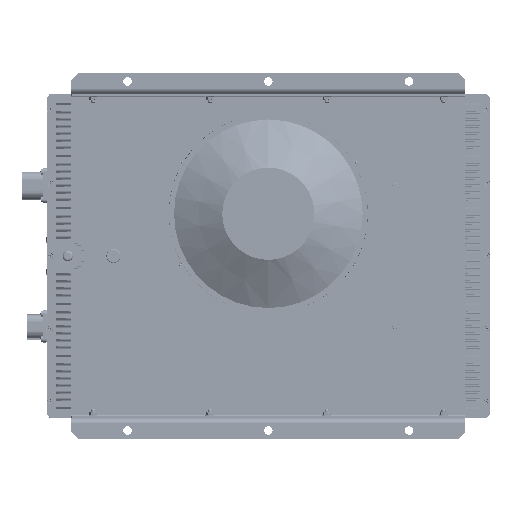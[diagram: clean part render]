
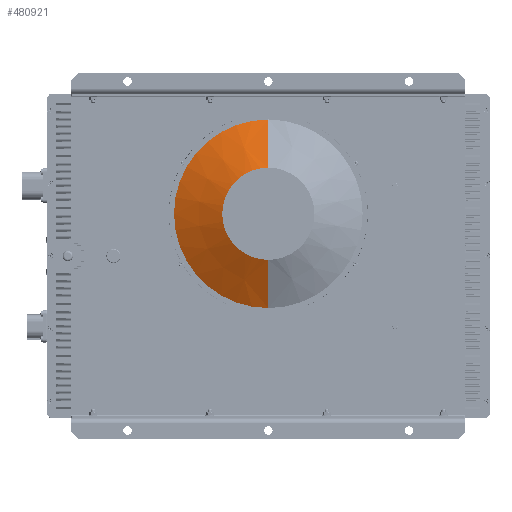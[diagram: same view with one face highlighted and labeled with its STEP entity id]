
A CAD part, front view. The second image highlights one B-rep face of the part: STEP entity #480921.
In plain terms, the highlighted conical face has half-angle 64.277 degrees and reference radius 65.5 mm.
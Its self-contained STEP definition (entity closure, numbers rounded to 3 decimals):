
#3414 = CARTESIAN_POINT ( 'NONE',  ( 0., -92., 194. ) ) ;
#21713 = CARTESIAN_POINT ( 'NONE',  ( 0., -125., -5.5 ) ) ;
#26962 = EDGE_CURVE ( 'NONE', #290509, #72258, #127569, .T. ) ;
#54387 = LINE ( 'NONE', #21713, #316258 ) ;
#60886 = EDGE_LOOP ( 'NONE', ( #364742, #251964, #407699, #353450 ) ) ;
#72258 = VERTEX_POINT ( 'NONE', #382557 ) ;
#84966 = FACE_OUTER_BOUND ( 'NONE', #60886, .T. ) ;
#112932 = DIRECTION ( 'NONE',  ( 0., 0., -1. ) ) ;
#113433 = CARTESIAN_POINT ( 'NONE',  ( 0., -92., 60. ) ) ;
#127569 = CIRCLE ( 'NONE', #384098, 65.5 ) ;
#142419 = AXIS2_PLACEMENT_3D ( 'NONE', #113433, #266429, #454849 ) ;
#162787 = CARTESIAN_POINT ( 'NONE',  ( 0., -125., 60. ) ) ;
#186863 = VERTEX_POINT ( 'NONE', #3414 ) ;
#210031 = DIRECTION ( 'NONE',  ( 0., 0.434, -0.901 ) ) ;
#229074 = EDGE_CURVE ( 'NONE', #282919, #186863, #270192, .T. ) ;
#234754 = DIRECTION ( 'NONE',  ( 0., 0.434, 0.901 ) ) ;
#237968 = DIRECTION ( 'NONE',  ( 0., 1., 0. ) ) ;
#251964 = ORIENTED_EDGE ( 'NONE', *, *, #301516, .T. ) ;
#266429 = DIRECTION ( 'NONE',  ( 0., 1., 0. ) ) ;
#269632 = VECTOR ( 'NONE', #234754, 1000. ) ;
#270192 = CIRCLE ( 'NONE', #142419, 134. ) ;
#282919 = VERTEX_POINT ( 'NONE', #317427 ) ;
#290509 = VERTEX_POINT ( 'NONE', #475399 ) ;
#301516 = EDGE_CURVE ( 'NONE', #72258, #186863, #415760, .T. ) ;
#316258 = VECTOR ( 'NONE', #210031, 1000. ) ;
#317427 = CARTESIAN_POINT ( 'NONE',  ( 0., -92., -74. ) ) ;
#318131 = EDGE_CURVE ( 'NONE', #290509, #282919, #54387, .T. ) ;
#338756 = DIRECTION ( 'NONE',  ( 0., 1., 0. ) ) ;
#353450 = ORIENTED_EDGE ( 'NONE', *, *, #318131, .F. ) ;
#356783 = AXIS2_PLACEMENT_3D ( 'NONE', #162787, #237968, #396005 ) ;
#364742 = ORIENTED_EDGE ( 'NONE', *, *, #26962, .T. ) ;
#372503 = CONICAL_SURFACE ( 'NONE', #356783, 65.5, 1.122 ) ;
#382557 = CARTESIAN_POINT ( 'NONE',  ( 0., -125., 125.5 ) ) ;
#384098 = AXIS2_PLACEMENT_3D ( 'NONE', #419139, #338756, #112932 ) ;
#396005 = DIRECTION ( 'NONE',  ( 0., 0., -1. ) ) ;
#407699 = ORIENTED_EDGE ( 'NONE', *, *, #229074, .F. ) ;
#415760 = LINE ( 'NONE', #418226, #269632 ) ;
#418226 = CARTESIAN_POINT ( 'NONE',  ( 0., -125., 125.5 ) ) ;
#419139 = CARTESIAN_POINT ( 'NONE',  ( 0., -125., 60. ) ) ;
#454849 = DIRECTION ( 'NONE',  ( 0., 0., -1. ) ) ;
#475399 = CARTESIAN_POINT ( 'NONE',  ( 0., -125., -5.5 ) ) ;
#480921 = ADVANCED_FACE ( 'NONE', ( #84966 ), #372503, .T. ) ;
